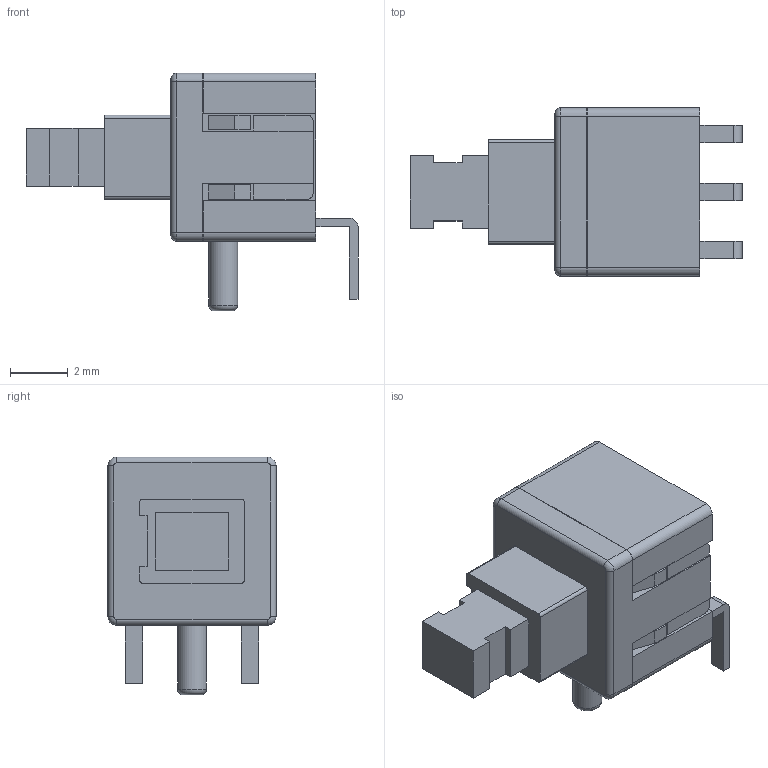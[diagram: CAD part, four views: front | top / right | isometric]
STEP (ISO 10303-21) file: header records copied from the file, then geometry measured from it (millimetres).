
FILE_DESCRIPTION(/* description */ ('STEP AP242 Edition 2','CAx-IF Rec.Pracs.---Representation and Presentation of Product Manufacturing Information (PMI)---4.0---2014-10-13','CAx-IF Rec.Pracs.---3D Tessellated Geometry---0.4---2014-09-14','2;1','CAx-IF Rec.Pracs.---User Defined Attributes---1.5---2016-08-15'),/* implementation_level */ '2;1');
FILE_NAME(/* name */ 'Assembly 1 - SW-TH_3P-L5.8_WSGT-3P-CC~SW-TH_3P-L5.8_WSGT-3P-CC~nxQB (6)',/* time_stamp */ '2026-04-02T09:55:27Z',/* author */ (''),/* organization */ (''),/* preprocessor_version */ 'ST-DEVELOPER v20',/* originating_system */ 'ONSHAPE BY PTC INC, 1.212',/* authorisation */ ' ');
FILE_SCHEMA (('AP242_MANAGED_MODEL_BASED_3D_ENGINEERING_MIM_LF { 1 0 10303 442 3 1 4 }'));
Length unit declared in the file: metre
Products named in the file (1): SW-TH_3P-L5.8_WSGT-3P-CC~SW-TH_3P-L5.8_WSGT-3P-CC~nxQB
Bounding box: 11.45 x 5.8 x 8.2 mm (x, y, z)
Volume: 205.8 mm3; surface area: 285.9 mm2
Topology: 1 solids, 1 shells, 144 faces, 380 edges, 249 vertices
Faces by surface type: plane 115, cylinder 24, torus 5
Full cylindrical faces by diameter (mm): 1 x1
Entity records: 5395 total; most frequent: CARTESIAN_POINT 772, ORIENTED_EDGE 756, DIRECTION 721, EDGE_CURVE 378, LINE 325, VECTOR 325, VERTEX_POINT 249, AXIS2_PLACEMENT_3D 198
